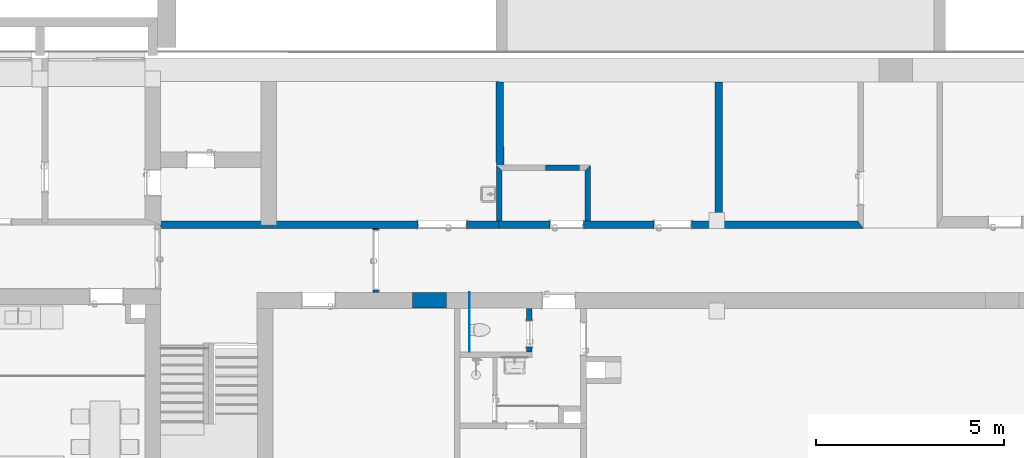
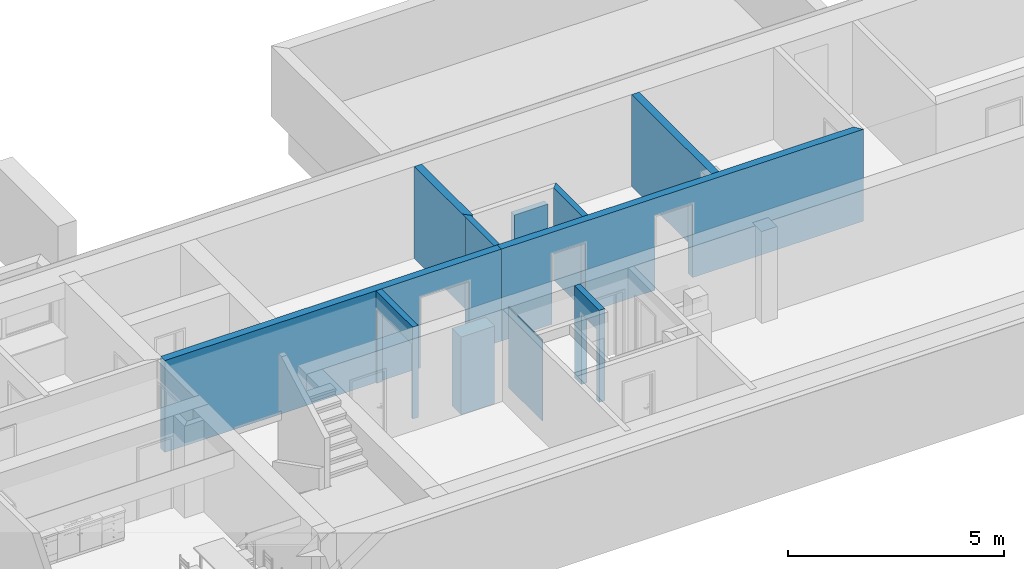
# One storey, part 13 of 127: 11 walls, 5 openings.
"""IFC2X3 building model written with IfcOpenShell, lengths in millimetres."""

from ifc_helpers import new_model, entity, si_unit, converted_unit, derived_unit, money_unit, direction, frame, origin_with_axes, origin_2d_with_axis, place, context, subcontext, project, spatial, polyline, rectangle, outline, extrude, material, layer, layer_set, layer_usage, type_object, element, save


model = new_model("IFC2X3")

# Units and contexts
model_context = context("Model", 3, precision=1e-05, world=origin_with_axes(), true_north=direction((0.0, 1.0)))
body_context = subcontext(model_context, "Body", "Model", "MODEL_VIEW")
ifc_project = project(units=[si_unit("LENGTHUNIT", "METRE", prefix="MILLI"), si_unit("AREAUNIT", "SQUARE_METRE"), si_unit("VOLUMEUNIT", "CUBIC_METRE"), converted_unit("PLANEANGLEUNIT", "DEGREE", entity("IfcPlaneAngleMeasure", 0.0174532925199), si_unit("PLANEANGLEUNIT", "RADIAN"), dimensions=[0, 0, 0, 0, 0, 0, 0]), si_unit("SOLIDANGLEUNIT", "STERADIAN"), money_unit("EUR"), converted_unit("TIMEUNIT", "Year", entity("IfcTimeMeasure", 31556926.0), si_unit("TIMEUNIT", "SECOND"), dimensions=[0, 0, 1, 0, 0, 0, 0]), si_unit("MASSUNIT", "GRAM", prefix="KILO"), si_unit("THERMODYNAMICTEMPERATUREUNIT", "DEGREE_CELSIUS"), si_unit("LUMINOUSINTENSITYUNIT", "LUMEN"), si_unit("ENERGYUNIT", "JOULE", prefix="MEGA"), derived_unit("THERMALCONDUCTANCEUNIT", [(si_unit("POWERUNIT", "WATT"), 1), (si_unit("LENGTHUNIT", "METRE"), -1), (si_unit("THERMODYNAMICTEMPERATUREUNIT", "KELVIN"), -1)]), derived_unit("SPECIFICHEATCAPACITYUNIT", [(si_unit("ENERGYUNIT", "JOULE"), 1), (si_unit("MASSUNIT", "GRAM", prefix="KILO"), -1), (si_unit("THERMODYNAMICTEMPERATUREUNIT", "KELVIN"), -1)]), derived_unit("MASSDENSITYUNIT", [(si_unit("MASSUNIT", "GRAM", prefix="KILO"), 1), (si_unit("VOLUMEUNIT", "CUBIC_METRE"), -1)])], contexts=[model_context])

# Site, building, storey
site_placement = place(None, origin_with_axes())
site = spatial("IfcSite", under=ifc_project, at=site_placement, Name="Site", CompositionType="ELEMENT")
building_placement = place(site_placement, origin_with_axes())
building = spatial("IfcBuilding", under=site, at=building_placement, Name="Building", CompositionType="ELEMENT")
storey_placement = place(building_placement, origin_with_axes())
storey = spatial("IfcBuildingStorey", under=building, at=storey_placement, Name="1 KORRUS", CompositionType="ELEMENT", Elevation=0.0)

# Wall, opening
ifc_material_1 = material(Name="Kivi -Ol.Olev Konstruktsioon")
ifc_layer_1 = layer(ifc_material_1, 200.0, ventilated="UNKNOWN")
ifc_layer_set_1 = layer_set([ifc_layer_1], Name="ol.olev ss 200")
ifc_layer_usage_1 = layer_usage(ifc_layer_set_1, "AXIS2", "POSITIVE", 0.0)
wall_type_1 = type_object("IfcWallType", Name="SW - 022", PredefinedType="NOTDEFINED")
wall_1_placement = place(storey_placement, frame((61003.0967079, 42706.5120665, 0.0), z_axis=(0.0, 0.0, 1.0), x_axis=(1.0, 0.0, 0.0)))
wall_1 = element("IfcWallStandardCase", 1, at=wall_1_placement, inside=storey, type_object=wall_type_1, material=ifc_layer_usage_1, Name="ol.olev ss 200", context=body_context, shape_type="SweptSolid", body=[
    extrude(outline(polyline([(150.0, 0.0), (9153.67790521, 0.0), (9153.67790521, 200.0), (150.0, 200.0), (150.0, 0.0)])), origin_with_axes(), (0.0, 0.0, 1.0), 2600.0),
])
opening_1_placement = place(wall_1_placement, frame((7643.5744531, 0.0, 0.0), z_axis=(0.0, 0.0, 1.0), x_axis=(1.0, 0.0, 0.0)))
element("IfcOpeningElement", 2, at=opening_1_placement, cuts=wall_1, Name="Siseuks * Metal Double Door 22", context=body_context, shape_type="SweptSolid", body=[
    extrude(rectangle(XDim=1300.0, YDim=2000.0, at=origin_2d_with_axis()), frame((0.0, 200.0, 1000.0), z_axis=(0.0, -1.0, 0.0), x_axis=(-1.0, 0.0, 0.0)), (0.0, 0.0, 1.0), 600.0),
    extrude(rectangle(XDim=1386.0, YDim=2043.0, at=origin_2d_with_axis()), frame((0.0, 200.0, 1021.5), z_axis=(0.0, -1.0, 0.0), x_axis=(-1.0, 0.0, 0.0)), (0.0, 0.0, -1.0), 200.0),
    extrude(rectangle(XDim=1386.0, YDim=2043.0, at=origin_2d_with_axis()), frame((0.0, 0.0, 1021.5), z_axis=(0.0, 1.0, 0.0), x_axis=(-1.0, 0.0, 0.0)), (0.0, 0.0, -1.0), 200.0),
])

# Wall
ifc_material_2 = material(Name="Kivi -  Uus Konstruktsioon")
ifc_layer_2 = layer(ifc_material_2, 420.0, ventilated="UNKNOWN")
ifc_layer_set_2 = layer_set([ifc_layer_2], Name="uus kinni ehitav sein 420")
ifc_layer_usage_2 = layer_usage(ifc_layer_set_2, "AXIS2", "NEGATIVE", 0.0)
wall_type_2 = type_object("IfcWallType", Name="FIBO", PredefinedType="NOTDEFINED")
wall_2_placement = place(storey_placement, frame((68758.3008031, 40587.4975598, 0.0), z_axis=(0.0, 0.0, 1.0), x_axis=(-1.0, 0.0, 0.0)))
element("IfcWallStandardCase", 3, at=wall_2_placement, inside=storey, type_object=wall_type_2, material=ifc_layer_usage_2, Name="uus kinni ehitav sein 420", context=body_context, shape_type="SweptSolid", body=[
    extrude(outline(polyline([(0.0, -420.0), (899.999999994, -420.0), (899.999999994, 0.0), (0.0, 0.0), (0.0, -420.0)])), origin_with_axes(), (0.0, 0.0, 1.0), 2200.0),
])

# Wall, opening
ifc_layer_3 = layer(ifc_material_1, 150.0, ventilated="UNKNOWN")
ifc_layer_set_3 = layer_set([ifc_layer_3], Name="ol.olev ss 150")
ifc_layer_usage_3 = layer_usage(ifc_layer_set_3, "AXIS2", "POSITIVE", 0.0)
wall_type_3 = type_object("IfcWallType", Name="SW - 036", PredefinedType="NOTDEFINED")
wall_3_placement = place(storey_placement, frame((70884.6509864, 41003.0649281, 0.0), z_axis=(0.0, 0.0, 1.0), x_axis=(0.0, -1.0, 0.0)))
wall_3 = element("IfcWallStandardCase", 4, at=wall_3_placement, inside=storey, type_object=wall_type_3, material=ifc_layer_usage_3, Name="ol.olev ss 150", context=body_context, shape_type="SweptSolid", body=[
    extrude(outline(polyline([(420.0, 0.0), (1579.00000261, 0.0), (1579.00000261, 150.0), (420.0, 150.0), (420.0, 0.0)])), origin_with_axes(), (0.0, 0.0, 1.0), 2600.0),
])
opening_2_placement = place(wall_3_placement, frame((1096.64321716, 0.0, 0.0), z_axis=(0.0, 0.0, 1.0), x_axis=(1.0, 0.0, 0.0)))
element("IfcOpeningElement", 5, at=opening_2_placement, cuts=wall_3, Name="Siseuks * Door 22", context=body_context, shape_type="SweptSolid", body=[
    extrude(rectangle(XDim=700.000000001, YDim=2000.0, at=origin_2d_with_axis()), frame((0.0, 150.0, 1000.0), z_axis=(0.0, 1.0, 0.0), x_axis=(-1.0, 0.0, 0.0)), (0.0, 0.0, -1.0), 450.0),
    extrude(rectangle(XDim=773.999999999, YDim=2037.0, at=origin_2d_with_axis()), frame((0.0, 150.0, 1018.5), z_axis=(0.0, 1.0, 0.0), x_axis=(-1.0, 0.0, 0.0)), (0.0, 0.0, 1.0), 150.0),
    extrude(rectangle(XDim=773.999999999, YDim=2037.0, at=origin_2d_with_axis()), frame((0.0, 0.0, 1018.5), z_axis=(0.0, -1.0, 0.0), x_axis=(-1.0, 0.0, 0.0)), (0.0, 0.0, 1.0), 150.0),
])

# Walls
ifc_layer_usage_4 = layer_usage(ifc_layer_set_3, "AXIS2", "POSITIVE", 0.0)
wall_4_placement = place(storey_placement, frame((72593.6242701, 42706.5120665, 0.0), z_axis=(0.0, 0.0, 1.0), x_axis=(0.0, 1.0, 0.0)))
element("IfcWallStandardCase", 6, at=wall_4_placement, inside=storey, type_object=wall_type_3, material=ifc_layer_usage_4, Name="ol.olev ss 150", context=body_context, shape_type="SweptSolid", body=[
    extrude(outline(polyline([(200.0, 0.0), (1688.91021656, 0.0), (1538.72745228, 150.0), (200.0, 150.0), (200.0, 0.0)])), origin_with_axes(), (0.0, 0.0, 1.0), 2600.0),
])
ifc_layer_usage_5 = layer_usage(ifc_layer_set_1, "AXIS2", "POSITIVE", 0.0)
wall_5_placement = place(storey_placement, frame((70079.441402, 47239.195233, 0.0), z_axis=(0.0, 0.0, 1.0), x_axis=(0.00116906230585, -0.999999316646, 0.0)))
element("IfcWallStandardCase", 7, at=wall_5_placement, inside=storey, type_object=wall_type_3, material=ifc_layer_usage_5, Name="ol.olev ss 200", context=body_context, shape_type="SweptSolid", body=[
    extrude(outline(polyline([(630.000633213, 1.13686837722e-10), (2996.64950079, 1.13686837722e-10), (2996.64950079, 200.0), (630.284196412, 200.0), (630.000633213, 1.13686837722e-10)])), origin_with_axes(), (0.0, 0.0, 1.0), 2600.0),
])

# Wall, openings
ifc_layer_usage_6 = layer_usage(ifc_layer_set_1, "AXIS2", "POSITIVE", -200.0)
wall_6_placement = place(storey_placement, frame((79700.2206896, 42706.5120665, 0.0), z_axis=(0.0, 0.0, 1.0), x_axis=(-1.0, 0.0, 0.0)))
wall_6 = element("IfcWallStandardCase", 8, at=wall_6_placement, inside=storey, type_object=wall_type_3, material=ifc_layer_usage_6, Name="ol.olev ss 200", context=body_context, shape_type="SweptSolid", body=[
    extrude(outline(polyline([(0.0, -200.0), (9543.44607645, -200.0), (9543.44607645, 0.0), (-150.0, 0.0), (0.0, -200.0)])), origin_with_axes(), (0.0, 0.0, 1.0), 2600.0),
])
opening_3_placement = place(wall_6_placement, frame((7740.94366922, 0.0, 0.0), z_axis=(0.0, 0.0, 1.0), x_axis=(1.0, 0.0, 0.0)))
element("IfcOpeningElement", 9, at=opening_3_placement, cuts=wall_6, Name="Siseuks * Door 22", context=body_context, shape_type="SweptSolid", body=[
    extrude(rectangle(XDim=900.0, YDim=2000.0, at=origin_2d_with_axis()), frame((0.0, -200.0, 1000.0), z_axis=(0.0, -1.0, 0.0), x_axis=(-1.0, 0.0, 0.0)), (0.0, 0.0, -1.0), 600.0),
    extrude(rectangle(XDim=974.0, YDim=2037.0, at=origin_2d_with_axis()), frame((0.0, -200.0, 1018.5), z_axis=(0.0, -1.0, 0.0), x_axis=(-1.0, 0.0, 0.0)), (0.0, 0.0, 1.0), 200.0),
    extrude(rectangle(XDim=974.0, YDim=2037.0, at=origin_2d_with_axis()), frame((0.0, 0.0, 1018.5), z_axis=(0.0, 1.0, 0.0), x_axis=(-1.0, 0.0, 0.0)), (0.0, 0.0, 1.0), 200.0),
])
opening_4_placement = place(wall_6_placement, frame((4924.39787578, 0.0, 0.0), z_axis=(0.0, 0.0, 1.0), x_axis=(1.0, 0.0, 0.0)))
element("IfcOpeningElement", 10, at=opening_4_placement, cuts=wall_6, Name="Siseuks * Door 22", context=body_context, shape_type="SweptSolid", body=[
    extrude(rectangle(XDim=1000.0, YDim=2100.0, at=origin_2d_with_axis()), frame((0.0, -200.0, 1050.0), z_axis=(0.0, -1.0, 0.0), x_axis=(-1.0, 0.0, 0.0)), (0.0, 0.0, -1.0), 600.0),
    extrude(rectangle(XDim=1074.0, YDim=2137.0, at=origin_2d_with_axis()), frame((0.0, -200.0, 1068.5), z_axis=(0.0, -1.0, 0.0), x_axis=(-1.0, 0.0, 0.0)), (0.0, 0.0, 1.0), 200.0),
    extrude(rectangle(XDim=1074.0, YDim=2137.0, at=origin_2d_with_axis()), frame((0.0, 0.0, 1068.5), z_axis=(0.0, 1.0, 0.0), x_axis=(-1.0, 0.0, 0.0)), (0.0, 0.0, 1.0), 200.0),
])

# Walls
ifc_layer_usage_7 = layer_usage(ifc_layer_set_1, "AXIS2", "POSITIVE", 0.0)
wall_7_placement = place(storey_placement, frame((75900.2206895, 47237.7472998, 0.0), z_axis=(0.0, 0.0, 1.0), x_axis=(0.0, -1.0, 0.0)))
element("IfcWallStandardCase", 11, at=wall_7_placement, inside=storey, type_object=wall_type_3, material=ifc_layer_usage_7, Name="ol.olev ss 200", context=body_context, shape_type="SweptSolid", body=[
    extrude(outline(polyline([(630.000019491, 0.0), (4331.23523326, 0.0), (4331.23523326, 200.0), (630.049769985, 200.0), (630.000019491, 0.0)])), origin_with_axes(), (0.0, 0.0, 1.0), 2600.0),
])
ifc_layer_usage_8 = layer_usage(ifc_layer_set_3, "AXIS2", "POSITIVE", 0.0)
wall_type_4 = type_object("IfcWallType", Name="SW - 037", PredefinedType="NOTDEFINED")
wall_8_placement = place(storey_placement, frame((70083.0903094, 44392.3652382, 0.0), z_axis=(0.0, 0.0, 1.0), x_axis=(0.0, -1.0, 0.0)))
element("IfcWallStandardCase", 12, at=wall_8_placement, inside=storey, type_object=wall_type_4, material=ifc_layer_usage_8, Name="ol.olev ss 150", context=body_context, shape_type="SweptSolid", body=[
    extrude(outline(polyline([(0.0, 0.0), (1485.86423555, 0.0), (1485.86423555, 150.0), (149.817458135, 150.0), (0.0, 0.0)])), origin_with_axes(), (0.0, 0.0, 1.0), 2600.0),
])

# Wall, opening
ifc_layer_4 = layer(ifc_material_2, 150.0, ventilated="UNKNOWN")
ifc_layer_set_4 = layer_set([ifc_layer_4], Name="uus ss 150")
ifc_layer_usage_9 = layer_usage(ifc_layer_set_4, "AXIS2", "POSITIVE", 0.0)
wall_type_5 = type_object("IfcWallType", Name="SS-2", PredefinedType="NOTDEFINED")
wall_9_placement = place(storey_placement, frame((66803.8474773, 42706.5120665, 0.0), z_axis=(0.0, 0.0, 1.0), x_axis=(0.0, -1.0, 0.0)))
wall_9 = element("IfcWallStandardCase", 13, at=wall_9_placement, inside=storey, type_object=wall_type_5, material=ifc_layer_usage_9, Name="uus ss 150", context=body_context, shape_type="SweptSolid", body=[
    extrude(outline(polyline([(0.0, 0.0), (1703.44713842, 0.0), (1703.44713842, 150.0), (0.0, 150.0), (0.0, 0.0)])), origin_with_axes(), (0.0, 0.0, 1.0), 2600.0),
])
opening_5_placement = place(wall_9_placement, frame((843.169461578, 0.0, 0.0), z_axis=(0.0, 0.0, 1.0), x_axis=(1.0, 0.0, 0.0)))
element("IfcOpeningElement", 14, at=opening_5_placement, cuts=wall_9, Name="Siseuks * Double Door 22", context=body_context, shape_type="SweptSolid", body=[
    extrude(rectangle(XDim=1600.0, YDim=2100.0, at=origin_2d_with_axis()), frame((0.0, 150.0, 1050.0), z_axis=(0.0, -1.0, 0.0), x_axis=(-1.0, 0.0, 0.0)), (0.0, 0.0, 1.0), 450.0),
    extrude(rectangle(XDim=1674.0, YDim=2137.0, at=origin_2d_with_axis()), frame((0.0, 150.0, 1068.5), z_axis=(0.0, -1.0, 0.0), x_axis=(-1.0, 0.0, 0.0)), (0.0, 0.0, -1.0), 150.0),
    extrude(rectangle(XDim=1674.0, YDim=2137.0, at=origin_2d_with_axis()), frame((0.0, 0.0, 1068.5), z_axis=(0.0, 1.0, 0.0), x_axis=(-1.0, 0.0, 0.0)), (0.0, 0.0, -1.0), 150.0),
])

# Walls
ifc_layer_5 = layer(ifc_material_2, 150.0, ventilated="UNKNOWN")
ifc_layer_set_5 = layer_set([ifc_layer_5], Name="uus kinni ehitav sein 150")
ifc_layer_usage_10 = layer_usage(ifc_layer_set_5, "AXIS2", "NEGATIVE", 0.0)
wall_type_6 = type_object("IfcWallType", Name="SS", PredefinedType="NOTDEFINED")
wall_10_placement = place(storey_placement, frame((71392.0457086, 44393.9591363, 0.0), z_axis=(0.0, 0.0, 1.0), x_axis=(0.99999925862, 0.0012176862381, 0.0)))
element("IfcWallStandardCase", 15, at=wall_10_placement, inside=storey, type_object=wall_type_6, material=ifc_layer_usage_10, Name="uus kinni ehitav sein 150", context=body_context, shape_type="SweptSolid", body=[
    extrude(outline(polyline([(0.0, -150.000000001), (900.0, -150.0), (900.0, 0.0), (0.0, 0.0), (0.0, -150.000000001)])), origin_with_axes(), (0.0, 0.0, 1.0), 2200.0),
])
ifc_material_3 = material(Name="Kipsplaat")
ifc_layer_6 = layer(ifc_material_3, 13.0, ventilated="UNKNOWN")
ifc_layer_set_6 = layer_set([ifc_layer_6], Name="Kipsplaat 13")
ifc_layer_usage_11 = layer_usage(ifc_layer_set_6, "AXIS2", "NEGATIVE", 0.0)
wall_type_7 = type_object("IfcWallType", Name="loputuskasti raam", PredefinedType="NOTDEFINED")
wall_11_placement = place(storey_placement, frame((69375.1579562, 41003.0904258, 0.0), z_axis=(0.0, 0.0, 1.0), x_axis=(0.000221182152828, -0.999999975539, 0.0)))
element("IfcWallStandardCase", 16, at=wall_11_placement, inside=storey, type_object=wall_type_7, material=ifc_layer_usage_11, Name="Kipsplaat", context=body_context, shape_type="SweptSolid", body=[
    extrude(outline(polyline([(-9.09494701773e-10, -13.0), (1579.02266357, -13.0), (1579.02553894, 0.0), (0.0, 0.0), (-9.09494701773e-10, -13.0)])), origin_with_axes(), (0.0, 0.0, 1.0), 2300.0),
])

save(model, "model.ifc")
